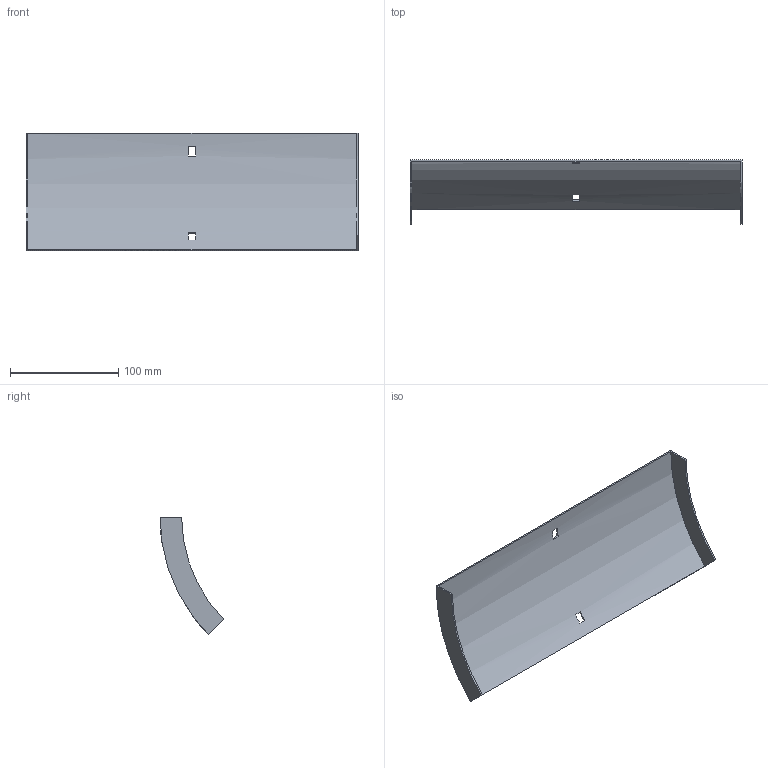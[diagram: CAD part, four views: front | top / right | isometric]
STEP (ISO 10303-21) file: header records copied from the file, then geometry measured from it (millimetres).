
FILE_DESCRIPTION (( 'STEP AP214' ), '1' );
FILE_NAME ('34N1B300.step', '2025-02-21T09:14:58', ( '' ), ( '' ), 'SwSTEP 2.0', 'SolidWorks 2023', '' );
FILE_SCHEMA (( 'AUTOMOTIVE_DESIGN' ));
Length unit declared in the file: millimetre
Products named in the file (1): 34N1B300
Bounding box: 307 x 59.1 x 108.54 mm (x, y, z)
Volume: 61291.8 mm3; surface area: 83164.3 mm2
Topology: 1 solids, 1 shells, 18 faces, 48 edges, 32 vertices
Faces by surface type: plane 14, cylinder 4
Entity records: 599 total; most frequent: DIRECTION 102, CARTESIAN_POINT 99, ORIENTED_EDGE 96, EDGE_CURVE 48, AXIS2_PLACEMENT_3D 35, VERTEX_POINT 32, VECTOR 32, LINE 32
